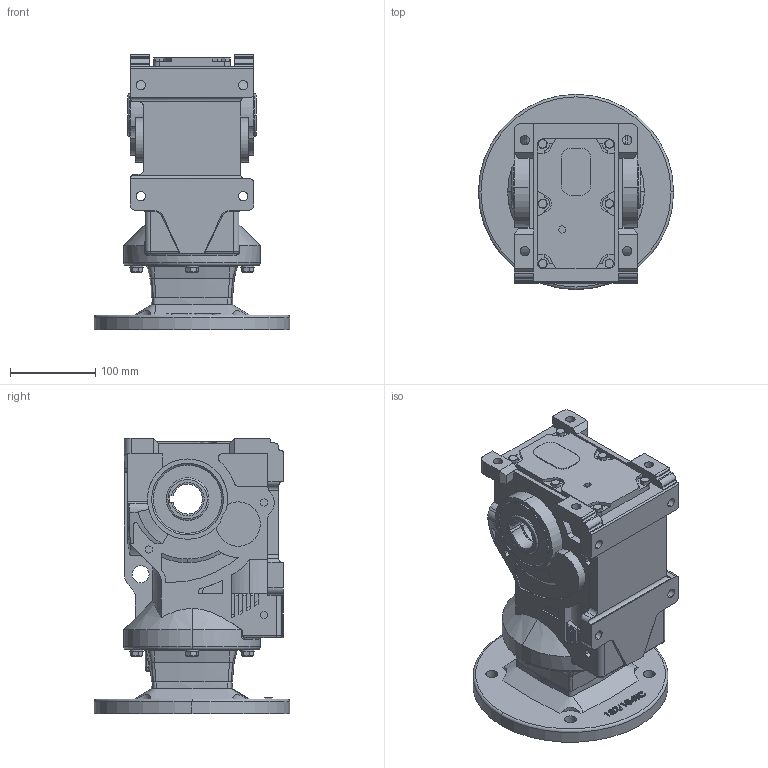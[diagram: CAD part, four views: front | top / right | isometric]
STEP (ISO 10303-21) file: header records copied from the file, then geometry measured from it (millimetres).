
FILE_DESCRIPTION (( 'STEP AP203' ), '1' );
FILE_NAME ('KHN47-182-4TC.STEP', '2022-04-07T06:53:59', ( 'user1' ), ( '' ), 'SwSTEP 2.0', 'SolidWorks 2012', '' );
FILE_SCHEMA (( 'CONFIG_CONTROL_DESIGN' ));
Length unit declared in the file: millimetre
Products named in the file (1): KHN47-182-4TC
Bounding box: 228.6 x 228.6 x 322 mm (x, y, z)
Volume: 2551770.2 mm3; surface area: 612540.9 mm2
Topology: 1 solids, 1 shells, 1403 faces, 3675 edges, 2375 vertices
Faces by surface type: plane 631, cylinder 446, bspline 148, cone 128, torus 46, sphere 4
Entity records: 55106 total; most frequent: CARTESIAN_POINT 21276, ORIENTED_EDGE 7336, DIRECTION 6593, EDGE_CURVE 3668, VERTEX_POINT 2375, AXIS2_PLACEMENT_3D 2315, VECTOR 1963, LINE 1963
